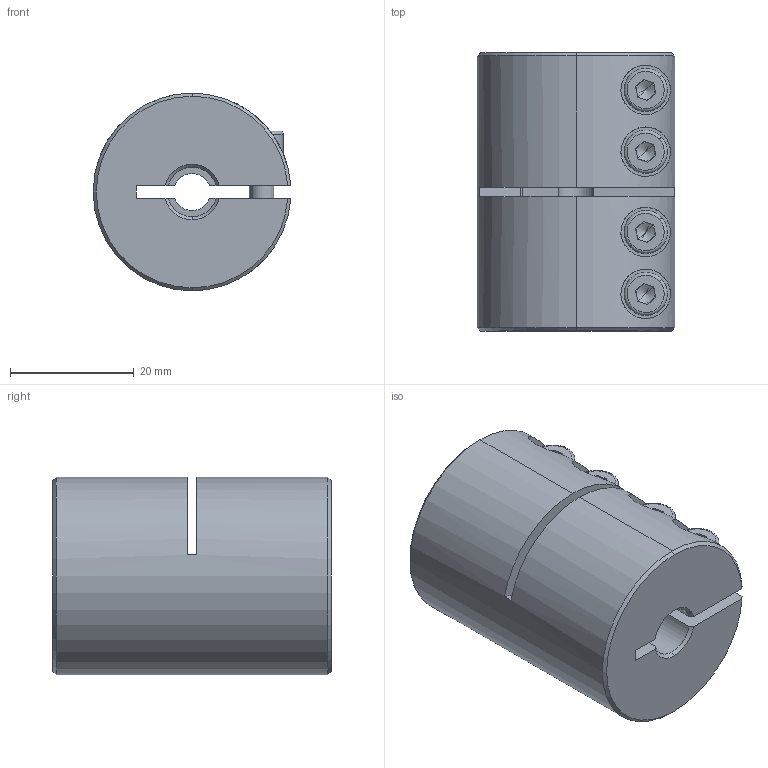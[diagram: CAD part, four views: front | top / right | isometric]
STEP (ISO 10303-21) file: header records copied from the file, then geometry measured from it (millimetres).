
FILE_DESCRIPTION (( 'STEP AP214' ), '1' );
FILE_NAME ('LL-B-D32L45-6-8½¨Ä£.STEP', '2022-07-21T06:42:40', ( '' ), ( '' ), 'SwSTEP 2.0', 'SolidWorks 2022', '' );
FILE_SCHEMA (( 'AUTOMOTIVE_DESIGN' ));
Length unit declared in the file: millimetre
Products named in the file (1): LL-B-D32L45-6-8膘耀
Bounding box: 31.97 x 45 x 32 mm (x, y, z)
Volume: 31577.2 mm3; surface area: 10731.6 mm2
Topology: 1 solids, 1 shells, 193 faces, 492 edges, 309 vertices
Faces by surface type: plane 88, cylinder 77, cone 20, torus 8
Entity records: 6357 total; most frequent: CARTESIAN_POINT 1583, DIRECTION 1037, ORIENTED_EDGE 968, EDGE_CURVE 484, AXIS2_PLACEMENT_3D 403, VERTEX_POINT 309, VECTOR 231, LINE 231
